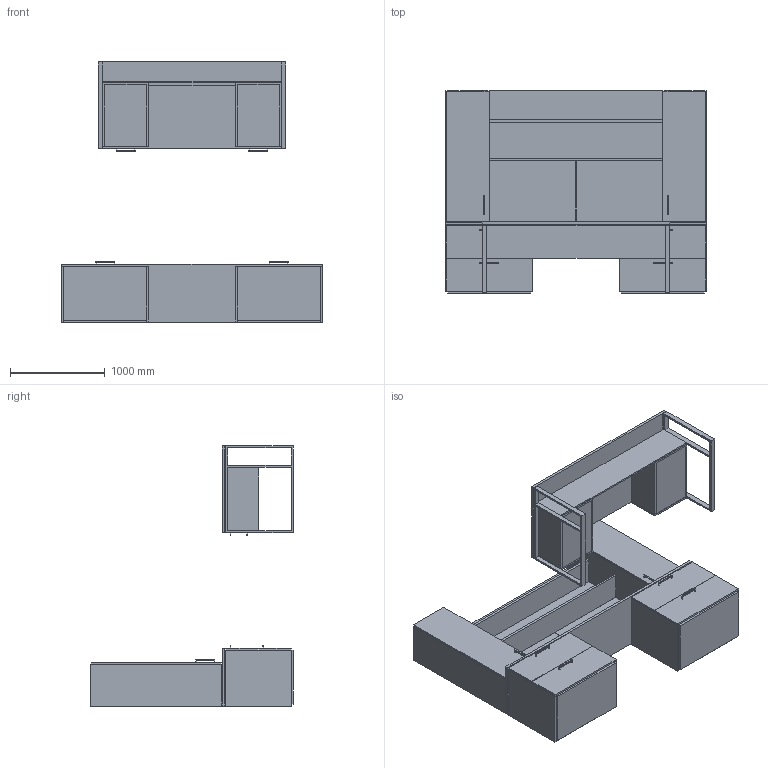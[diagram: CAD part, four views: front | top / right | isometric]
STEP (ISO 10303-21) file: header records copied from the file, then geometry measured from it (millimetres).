
FILE_DESCRIPTION(/* description */ ('','CAx-IF Rec.Pracs.---Representation and Presentation of Product Manufacturing Information (PMI)---4.0---2014-10-13'),/* implementation_level */ '2;1');
FILE_NAME(/* name */ 'BASYS^PO5.stp',/* time_stamp */ '2024-12-05T17:33:30-05:00',/* author */ ('mbowman'),/* organization */ (''),/* preprocessor_version */ 'ST-DEVELOPER v19.2',/* originating_system */ 'Autodesk Inventor 2023',/* authorisation */ '');
FILE_SCHEMA (('AP242_MANAGED_MODEL_BASED_3D_ENGINEERING_MIM_LF { 1 0 10303 442 1 1 4 }'));
Length unit declared in the file: inch
Products named in the file (18): BASYS^OFFICE 5_STAND ALONE DESK-2 SHELF WALL; BASYS^OFFICE 5_CREDENZA 3B 29-108 FILE FKF STORAGE; BASYS^OFFICE 5_CREDENZA 3B 29-108 FILE FKF STORAGE_1; BASYS^OFFICE 5_DESK-36in LOOP BASESiam; BASYS^DESK_STAND ALONE TOPS-78x36; BASYS^DESK_STAND ALONE TOPS-33.50 LEG REVEAL SPACER; BASYS^DESK_STAND ALONE TOPS-76.50 FRONT RAIL; BASYS^METAL BASE_36 INCH LEG-8 INCH OFFSET RAIL; BASYS^DESK_STAND ALONE MODESTY-74x13; BASYS^OFFICE 5_27.3125 HANGING PED_LETTER LEFT-F PED; BASYS^OFFICE 5_27.3125 HANGING PED_LEGAL LEFT-F PED; BASYS^OFFICE 5_27.3125 HANGING PED_LETTER RIGHT-BB PED; BASYS^OFFICE 5_27.3125 HANGING PED_LEGAL RIGHT-BB PED; BASYS^OFFICE 5_WARDROBE-18x18x55-LEFT END; BASYS^OFFICE 5_WARDROBE-18x18x55-RIGHT END; BASYS^OFFICE 5_WARDROBE-18x18x55-PARTS SOLID; SCHWINN-BAR PULL 2334.192; BASYS^OFFICE 5_WALL HUNGS-1.50x48.50x72-FIXED SHELVES W LIGHT
Assembly tree (28 placements, depth 4):
  BASYS^OFFICE 5_STAND ALONE DESK-2 SHELF WALL
    BASYS^OFFICE 5_CREDENZA 3B 29-108 FILE FKF STORAGE
      BASYS^OFFICE 5_CREDENZA 3B 29-108 FILE FKF STORAGE_1
      SCHWINN-BAR PULL 2334.192  x4
    BASYS^OFFICE 5_DESK-36in LOOP BASESiam
      BASYS^DESK_STAND ALONE TOPS-78x36
      BASYS^DESK_STAND ALONE TOPS-33.50 LEG REVEAL SPACER  x2
      BASYS^DESK_STAND ALONE TOPS-76.50 FRONT RAIL
      BASYS^METAL BASE_36 INCH LEG-8 INCH OFFSET RAIL  x2
      BASYS^DESK_STAND ALONE MODESTY-74x13
      BASYS^OFFICE 5_27.3125 HANGING PED_LETTER LEFT-F PED
        BASYS^OFFICE 5_27.3125 HANGING PED_LEGAL LEFT-F PED
        SCHWINN-BAR PULL 2334.192
      BASYS^OFFICE 5_27.3125 HANGING PED_LETTER RIGHT-BB PED
        BASYS^OFFICE 5_27.3125 HANGING PED_LEGAL RIGHT-BB PED
        SCHWINN-BAR PULL 2334.192  x2
    BASYS^OFFICE 5_WARDROBE-18x18x55-LEFT END
      BASYS^OFFICE 5_WARDROBE-18x18x55-PARTS SOLID
      SCHWINN-BAR PULL 2334.192
    BASYS^OFFICE 5_WARDROBE-18x18x55-RIGHT END
      BASYS^OFFICE 5_WARDROBE-18x18x55-PARTS SOLID
      SCHWINN-BAR PULL 2334.192
    BASYS^OFFICE 5_WALL HUNGS-1.50x48.50x72-FIXED SHELVES W LIGHT
Bounding box: 2743.2 x 2133.6 x 2743.2 mm (x, y, z)
Volume: 500762875.9 mm3; surface area: 48780496.3 mm2
Topology: 66 solids, 66 shells, 468 faces, 1008 edges, 672 vertices
Faces by surface type: plane 468
Entity records: 11324 total; most frequent: CARTESIAN_POINT 2346, DIRECTION 1520, ORIENTED_EDGE 1368, LINE 684, VECTOR 684, EDGE_CURVE 684, STYLED_ITEM 534, VERTEX_POINT 456
